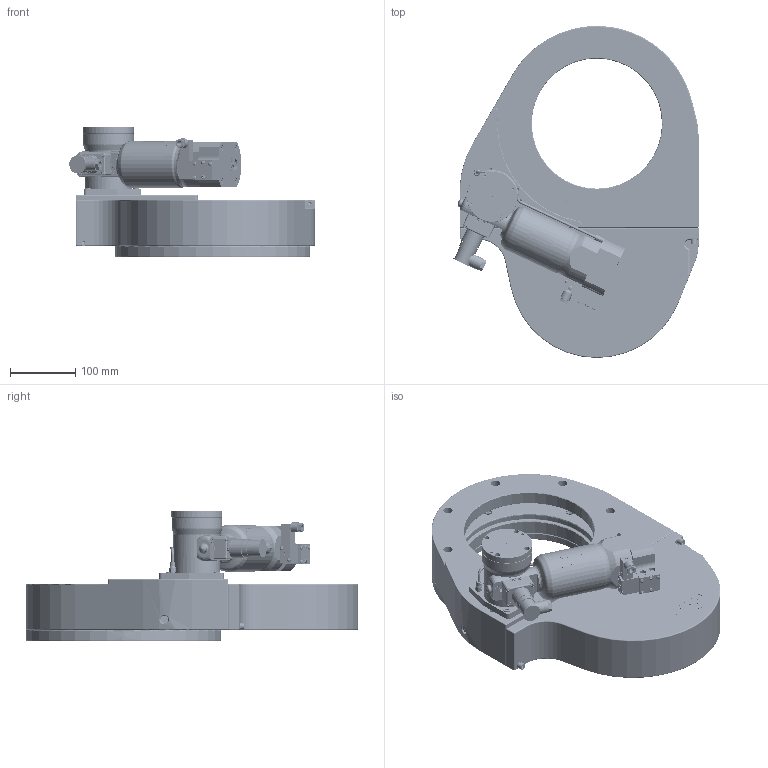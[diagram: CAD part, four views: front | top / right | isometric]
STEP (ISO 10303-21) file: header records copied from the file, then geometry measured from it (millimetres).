
FILE_DESCRIPTION(/* description */ (''),/* implementation_level */ '2;1');
FILE_NAME(/* name */ '1994458465_203.stp',/* time_stamp */ '2011-03-31T16:42:43+02:00',/* author */ (''),/* organization */ (''),/* preprocessor_version */ 'ST-DEVELOPER v11',/* originating_system */ 'SIEMENS UGS NX 6.0',/* authorisation */ '');
FILE_SCHEMA (('CONFIG_CONTROL_DESIGN'));
Products named in the file (60): 75429-01_15120ID; 69252-01_15149ID; 69252-01_15129ID; 82555-01; N-8210-239; 82610-01; N-8406-007; N-8406-551; N-6030-011; 69672-01; N-8406-006_1; 387801_15189ID; 69846-01; n-6024-531; N-8504-005.2; N-7557-016_1.1; N-7557-018.1; N-7557-016_2.1; N-7557-016_3.1; N-6024-524.1; N-5018-005.1; 248044.2; 250743; N-5002-497.1; N-6203-418.1; N-6091-462.1; N-6121-017.2; N-7607-023.1; N-6071-446.1; 244325.4; N-6005-461.1; N-6005-439_1.1; 265356.2; 265557.2; 244151.3; 244067.5; 218188.1; 242111.11; 222717.1; 242118.14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
Assembly tree (107 placements, depth 4):
  264462
    264466.2
    N-7636-200.2
    228776.1  x2
    248240.11
    310931.1
    n-6134-408  x2
    228777  x11
    310754.3_NX-ARRAGMNTEXPLOSIONE
      247374.3
      310276.1
      310619.1
      242117.8
      244326.2
      242118.14
      222717.1  x2
      242111.11
      218188.1  x3
      244067.5
      244151.3
      265557.2
      265356.2
      N-6005-439_1.1  x8
      N-6005-461.1  x4
      244325.4
      N-6071-446.1
      N-7607-023.1
      N-6121-017.2
      N-6091-462.1
      N-6203-418.1
      N-5002-497.1
      250743
      248044.2
    94800-r1.7_NX-ARRAGMNTKONFIG1
      N-5018-005.1  x2
      N-6024-524.1  x6
      N-7557-016_3.1
      N-7557-016_2.1
      N-7557-018.1
      N-7557-016_1.1
    310926.1
      N-8504-005.2
      71852-r1
        N-8406-006_1
        69672-01
        N-6030-011  x4
        N-8406-551  x2
        N-8406-007
        82610-01
        N-8210-239  x4
        82555-01
      n-6024-531  x4
      69428-r1_MODEL
        69252-01_15129ID
        69252-01_15149ID
        75429-01_15120ID
      69846-01
    319031.1
      387801_15189ID
    N-6090-119.1  x8
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Bounding box: 377.02 x 510 x 199.8 mm (x, y, z)
Volume: 5544000.1 mm3; surface area: 1129435.1 mm2
Topology: 160 solids, 160 shells, 4087 faces, 9718 edges, 6271 vertices
Faces by surface type: plane 2173, cylinder 1020, bspline 312, cone 275, torus 134, extrusion 133, sphere 37, revolution 3
Full cylindrical faces by diameter (mm): 0.5 x2, 1 x8, 1.2 x10, 1.5 x11, 1.6 x6, 1.95 x4, 2 x5, 2.2 x4, 2.25 x6, 2.3 x4, 2.5 x18, 2.7 x4, 2.8 x3, 2.856 x4, 3 x23, 3.2 x8, 3.26 x9, 3.3 x17, 3.4 x8, 3.5 x8, 3.8 x1, 3.9 x4, 4 x38, 4.025 x1, 4.054 x1, 4.16 x4, 4.2 x11, 4.5 x8, 4.96 x5, 5 x38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
Entity records: 119254 total; most frequent: CARTESIAN_POINT 36450, DIRECTION 14895, ORIENTED_EDGE 14474, EDGE_CURVE 7237, AXIS2_PLACEMENT_3D 5684, VERTEX_POINT 5239, EDGE_LOOP 4874, VECTOR 3524
